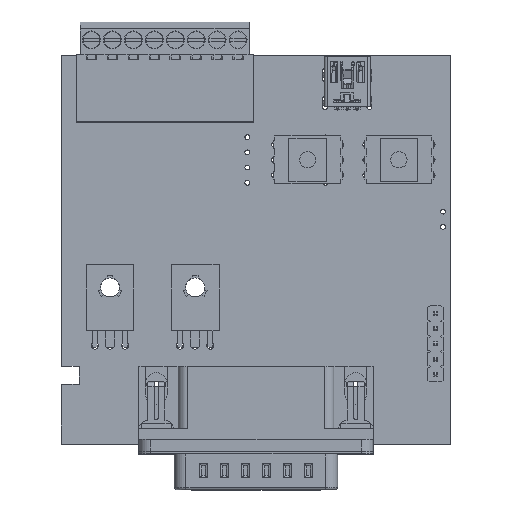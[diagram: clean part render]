
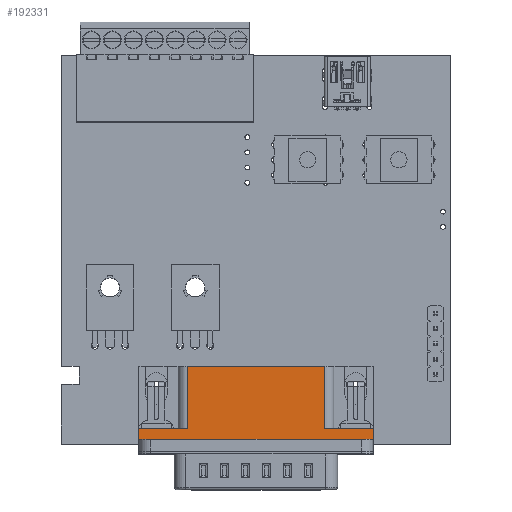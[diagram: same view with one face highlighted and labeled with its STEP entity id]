
A CAD part, top view. The second image highlights one B-rep face of the part: STEP entity #192331.
In plain terms, the highlighted planar face has unit normal (0, 0, 1).
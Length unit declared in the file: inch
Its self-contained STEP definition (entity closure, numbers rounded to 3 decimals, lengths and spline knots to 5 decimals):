
#6030 = CARTESIAN_POINT ( 'NONE',  ( 0.5124, 0.10276, 0.41358 ) ) ;
#8881 = DIRECTION ( 'NONE',  ( 1., 0., 0. ) ) ;
#18200 = DIRECTION ( 'NONE',  ( 0., -1., 0. ) ) ;
#22078 = ORIENTED_EDGE ( 'NONE', *, *, #97267, .T. ) ;
#23969 = VERTEX_POINT ( 'NONE', #39108 ) ;
#29754 = VERTEX_POINT ( 'NONE', #166210 ) ;
#31487 = ORIENTED_EDGE ( 'NONE', *, *, #110456, .T. ) ;
#33769 = EDGE_CURVE ( 'NONE', #140689, #131336, #272479, .T. ) ;
#34779 = VECTOR ( 'NONE', #199245, 39.37008 ) ;
#35733 = VECTOR ( 'NONE', #156145, 39.37008 ) ;
#36122 = ORIENTED_EDGE ( 'NONE', *, *, #226273, .F. ) ;
#39108 = CARTESIAN_POINT ( 'NONE',  ( -0.77047, 0.10276, 0.41358 ) ) ;
#39292 = DIRECTION ( 'NONE',  ( 0., 0., 1. ) ) ;
#42898 = CARTESIAN_POINT ( 'NONE',  ( -0.45335, 0.10276, 0.41358 ) ) ;
#44950 = CARTESIAN_POINT ( 'NONE',  ( 0.77047, 0.03189, 0.41358 ) ) ;
#57344 = EDGE_CURVE ( 'NONE', #88762, #131336, #194927, .T. ) ;
#60456 = ORIENTED_EDGE ( 'NONE', *, *, #197173, .T. ) ;
#63978 = VERTEX_POINT ( 'NONE', #69067 ) ;
#65324 = DIRECTION ( 'NONE',  ( 1., 0., 0. ) ) ;
#66247 = VECTOR ( 'NONE', #18200, 39.37008 ) ;
#69067 = CARTESIAN_POINT ( 'NONE',  ( -0.45335, 0.5122, 0.41358 ) ) ;
#79350 = CARTESIAN_POINT ( 'NONE',  ( -0.5124, 0.10276, 0.41358 ) ) ;
#88762 = VERTEX_POINT ( 'NONE', #178837 ) ;
#91815 = VERTEX_POINT ( 'NONE', #147193 ) ;
#97267 = EDGE_CURVE ( 'NONE', #140689, #104265, #284006, .T. ) ;
#101143 = LINE ( 'NONE', #79350, #191290 ) ;
#101301 = VECTOR ( 'NONE', #179124, 39.37008 ) ;
#104265 = VERTEX_POINT ( 'NONE', #105771 ) ;
#105771 = CARTESIAN_POINT ( 'NONE',  ( 0.45335, 0.5122, 0.41358 ) ) ;
#106027 = VECTOR ( 'NONE', #196555, 39.37008 ) ;
#107711 = CARTESIAN_POINT ( 'NONE',  ( 0.77047, 0.5122, 0.41358 ) ) ;
#110456 = EDGE_CURVE ( 'NONE', #104265, #63978, #247466, .T. ) ;
#113886 = LINE ( 'NONE', #180904, #35733 ) ;
#123445 = EDGE_CURVE ( 'NONE', #29754, #23969, #101143, .T. ) ;
#126608 = DIRECTION ( 'NONE',  ( 0., 1., 0. ) ) ;
#131336 = VERTEX_POINT ( 'NONE', #153268 ) ;
#132410 = EDGE_LOOP ( 'NONE', ( #31487, #60456, #278699, #36122, #266127, #224026, #257817, #22078 ) ) ;
#140689 = VERTEX_POINT ( 'NONE', #211941 ) ;
#147193 = CARTESIAN_POINT ( 'NONE',  ( -0.77047, 0.03189, 0.41358 ) ) ;
#152000 = LINE ( 'NONE', #42898, #66247 ) ;
#153268 = CARTESIAN_POINT ( 'NONE',  ( 0.77047, 0.10276, 0.41358 ) ) ;
#156145 = DIRECTION ( 'NONE',  ( -1., 0., 0. ) ) ;
#163246 = AXIS2_PLACEMENT_3D ( 'NONE', #218238, #39292, #65324 ) ;
#166210 = CARTESIAN_POINT ( 'NONE',  ( -0.45335, 0.10276, 0.41358 ) ) ;
#168115 = DIRECTION ( 'NONE',  ( -1., 0., 0. ) ) ;
#178837 = CARTESIAN_POINT ( 'NONE',  ( 0.77047, 0.03189, 0.41358 ) ) ;
#179124 = DIRECTION ( 'NONE',  ( 0., 1., 0. ) ) ;
#180904 = CARTESIAN_POINT ( 'NONE',  ( 0.77047, 0.03189, 0.41358 ) ) ;
#191290 = VECTOR ( 'NONE', #168115, 39.37008 ) ;
#192331 = ADVANCED_FACE ( 'NONE', ( #238670 ), #264874, .T. ) ;
#194927 = LINE ( 'NONE', #44950, #34779 ) ;
#196555 = DIRECTION ( 'NONE',  ( -1., 0., 0. ) ) ;
#197173 = EDGE_CURVE ( 'NONE', #63978, #29754, #152000, .T. ) ;
#199245 = DIRECTION ( 'NONE',  ( 0., 1., 0. ) ) ;
#202742 = EDGE_CURVE ( 'NONE', #88762, #91815, #113886, .T. ) ;
#211941 = CARTESIAN_POINT ( 'NONE',  ( 0.45335, 0.10276, 0.41358 ) ) ;
#216409 = VECTOR ( 'NONE', #126608, 39.37008 ) ;
#218238 = CARTESIAN_POINT ( 'NONE',  ( 0.77047, 0.03189, 0.41358 ) ) ;
#221552 = VECTOR ( 'NONE', #8881, 39.37008 ) ;
#224026 = ORIENTED_EDGE ( 'NONE', *, *, #57344, .T. ) ;
#226273 = EDGE_CURVE ( 'NONE', #91815, #23969, #228510, .T. ) ;
#228510 = LINE ( 'NONE', #269445, #101301 ) ;
#238670 = FACE_OUTER_BOUND ( 'NONE', #132410, .T. ) ;
#247466 = LINE ( 'NONE', #107711, #106027 ) ;
#257817 = ORIENTED_EDGE ( 'NONE', *, *, #33769, .F. ) ;
#259248 = CARTESIAN_POINT ( 'NONE',  ( 0.45335, 0.5122, 0.41358 ) ) ;
#264874 = PLANE ( 'NONE',  #163246 ) ;
#266127 = ORIENTED_EDGE ( 'NONE', *, *, #202742, .F. ) ;
#269445 = CARTESIAN_POINT ( 'NONE',  ( -0.77047, 0.03189, 0.41358 ) ) ;
#272479 = LINE ( 'NONE', #6030, #221552 ) ;
#278699 = ORIENTED_EDGE ( 'NONE', *, *, #123445, .T. ) ;
#284006 = LINE ( 'NONE', #259248, #216409 ) ;
